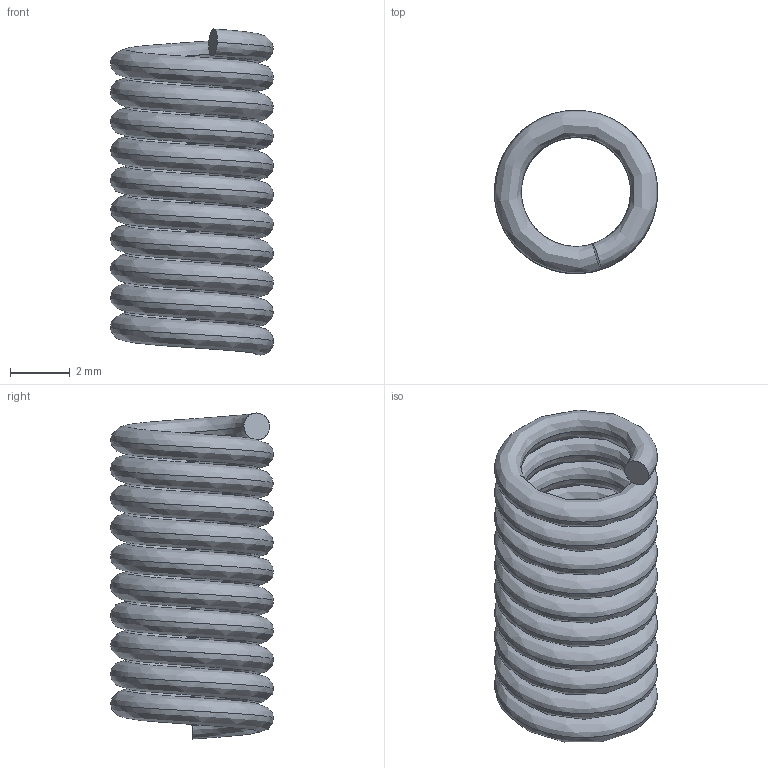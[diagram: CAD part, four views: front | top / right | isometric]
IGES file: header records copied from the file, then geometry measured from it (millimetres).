
Start section: SolidWorks IGES FILE using analytic representation for surfaces
Global section: file name: C:\Documents and Settings\lecoutey\Bureau\GR 78 E\1076.230.10.IGS; native system: SolidWorks 2004 by SolidWorks Corporation; preprocessor: Version 5.3; author: lecoutey; date: 050404.175847; units: millimetre
Bounding box: 5.45 x 5.45 x 10.9 mm (x, y, z)
Surface area: 414.5 mm2 (no closed solid volume)
Topology: 0 solids, 0 shells, 4 faces, 40 edges, 40 vertices
Faces by surface type: bspline 4
